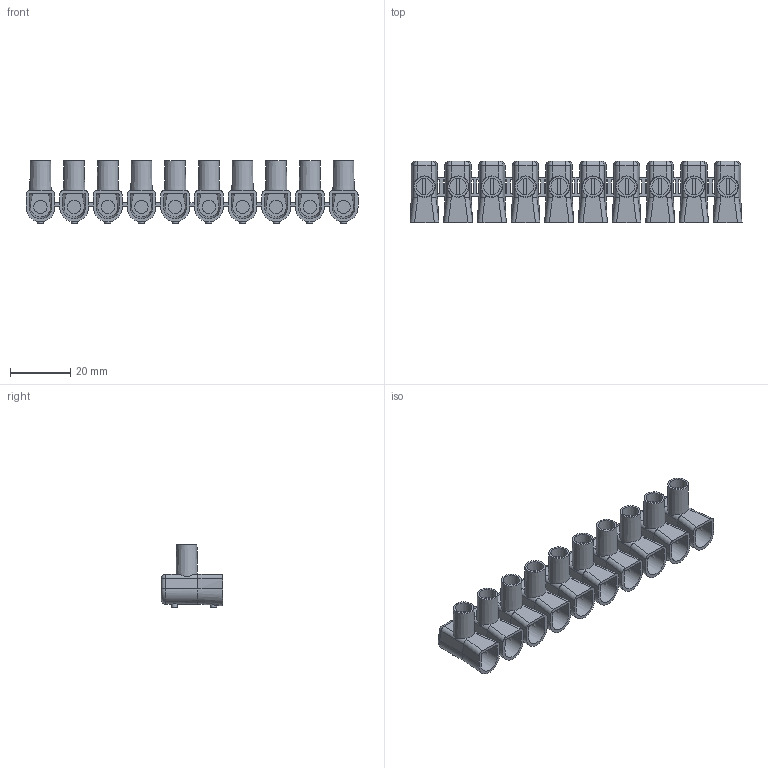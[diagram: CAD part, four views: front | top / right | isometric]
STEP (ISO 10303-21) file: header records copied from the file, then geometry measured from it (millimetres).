
FILE_DESCRIPTION(/* description */ ('Unknown'),/* implementation_level */ '2;1');
FILE_NAME(/* name */ 'MT 504',/* time_stamp */ '2021-10-08T09:43:26+02:00',/* author */ ('Unknown'),/* organization */ ('Unknown'),/* preprocessor_version */ 'ST-DEVELOPER v16.7',/* originating_system */ 'Solid Edge',/* authorisation */ 'Unknown');
FILE_SCHEMA (('AUTOMOTIVE_DESIGN {1 0 10303 214 3 1 1}'));
Length unit declared in the file: millimetre
Products named in the file (1): MT 504
Bounding box: 110.4 x 20.5 x 20.9 mm (x, y, z)
Volume: 12469.1 mm3; surface area: 16089.2 mm2
Topology: 1 solids, 1 shells, 570 faces, 1732 edges, 1158 vertices
Faces by surface type: plane 300, cylinder 130, bspline 100, sphere 20, torus 10, cone 10
Full cylindrical faces by diameter (mm): 2 x20, 4.4 x10, 5.5 x10
Entity records: 32910 total; most frequent: CARTESIAN_POINT 18751, ORIENTED_EDGE 3244, DIRECTION 2436, EDGE_CURVE 1622, VERTEX_POINT 1118, AXIS2_PLACEMENT_3D 833, LINE 770, VECTOR 770
